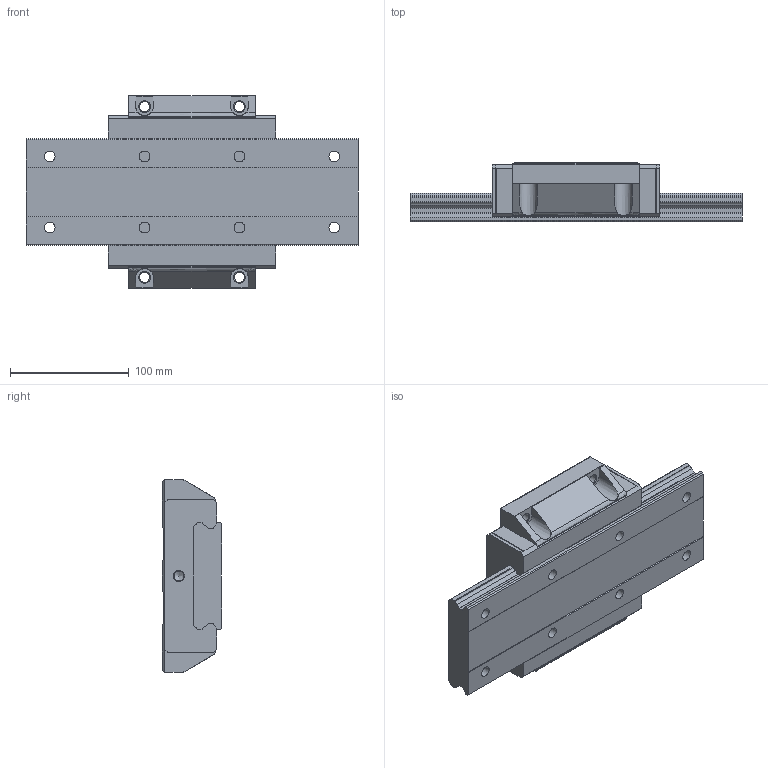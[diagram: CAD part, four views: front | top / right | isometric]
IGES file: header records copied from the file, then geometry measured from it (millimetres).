
Start section: Data from Parasolid IGES Translator 26.0.171, Copyright(c) 2006 Siemens PLM Software. All Rights Reserved.
Global section: file name: SHW50CA1SS-280L_G20_0_Without_grease_nipple_69-5_0_0_01.igs; native system: By Siemens PLM Incorporated; preprocessor: XPlus GENERIC/IGES 26.0.171; author: Noname; organization: Noname; date: 20240517.081815; units: millimetre
Bounding box: 280 x 50 x 162 mm (x, y, z)
Surface area: 153248.6 mm2 (no closed solid volume)
Topology: 0 solids, 0 shells, 200 faces, 1116 edges, 1068 vertices
Faces by surface type: extrusion 116, revolution 84
